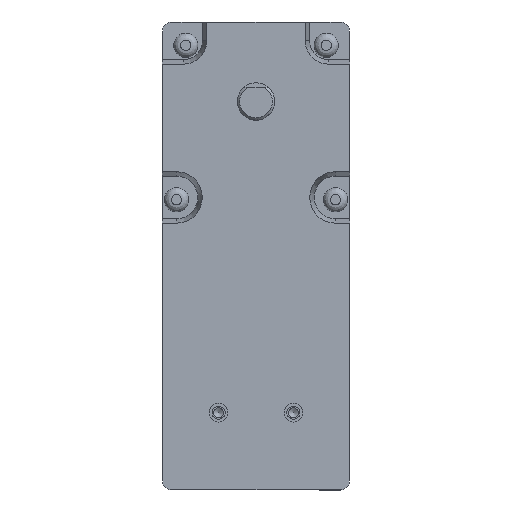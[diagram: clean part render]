
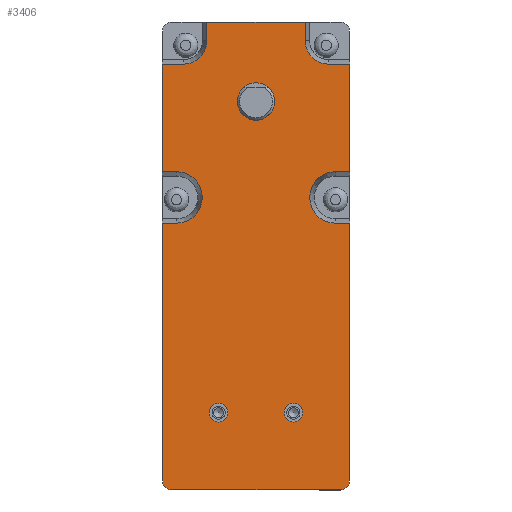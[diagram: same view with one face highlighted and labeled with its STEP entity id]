
A CAD part, top view. The second image highlights one B-rep face of the part: STEP entity #3406.
In plain terms, the highlighted planar face has unit normal (0, 0, 1) as drawn and (0, 1, 0) by its records, which use the part's own axes.
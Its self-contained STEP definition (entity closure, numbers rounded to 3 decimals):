
#73=FACE_BOUND('',#652,.T.);
#74=FACE_BOUND('',#653,.T.);
#75=FACE_BOUND('',#654,.T.);
#152=PLANE('',#3816);
#411=FACE_OUTER_BOUND('',#651,.T.);
#651=EDGE_LOOP('',(#2731,#2732,#2733,#2734,#2735,#2736,#2737,#2738,#2739,
#2740,#2741,#2742,#2743,#2744,#2745,#2746,#2747,#2748,#2749,#2750));
#652=EDGE_LOOP('',(#2751));
#653=EDGE_LOOP('',(#2752));
#654=EDGE_LOOP('',(#2753));
#826=LINE('',#5208,#1110);
#838=LINE('',#5240,#1122);
#842=LINE('',#5247,#1126);
#853=LINE('',#5423,#1137);
#854=LINE('',#5425,#1138);
#860=LINE('',#5442,#1144);
#861=LINE('',#5444,#1145);
#868=LINE('',#5462,#1152);
#869=LINE('',#5465,#1153);
#874=LINE('',#5476,#1158);
#880=LINE('',#5491,#1164);
#899=LINE('',#5578,#1183);
#900=LINE('',#5579,#1184);
#904=LINE('',#5607,#1188);
#1110=VECTOR('',#4141,10.);
#1122=VECTOR('',#4173,10.);
#1126=VECTOR('',#4177,10.);
#1137=VECTOR('',#4258,10.);
#1138=VECTOR('',#4261,10.);
#1144=VECTOR('',#4277,10.);
#1145=VECTOR('',#4280,10.);
#1152=VECTOR('',#4297,10.);
#1153=VECTOR('',#4300,10.);
#1158=VECTOR('',#4309,10.);
#1164=VECTOR('',#4323,10.);
#1183=VECTOR('',#4418,10.);
#1184=VECTOR('',#4419,10.);
#1188=VECTOR('',#4453,10.);
#1393=CIRCLE('',#3671,2.);
#1395=CIRCLE('',#3676,2.);
#1418=CIRCLE('',#3712,5.5);
#1420=CIRCLE('',#3718,5.);
#1422=CIRCLE('',#3724,5.5);
#1424=CIRCLE('',#3731,5.);
#1435=CIRCLE('',#3752,4.);
#1438=CIRCLE('',#3757,2.);
#1442=CIRCLE('',#3764,2.);
#1587=VERTEX_POINT('',#5205);
#1588=VERTEX_POINT('',#5207);
#1589=VERTEX_POINT('',#5211);
#1593=VERTEX_POINT('',#5225);
#1597=VERTEX_POINT('',#5237);
#1598=VERTEX_POINT('',#5239);
#1601=VERTEX_POINT('',#5245);
#1621=VERTEX_POINT('',#5414);
#1622=VERTEX_POINT('',#5416);
#1625=VERTEX_POINT('',#5430);
#1626=VERTEX_POINT('',#5432);
#1629=VERTEX_POINT('',#5440);
#1631=VERTEX_POINT('',#5450);
#1632=VERTEX_POINT('',#5452);
#1635=VERTEX_POINT('',#5460);
#1636=VERTEX_POINT('',#5464);
#1639=VERTEX_POINT('',#5473);
#1640=VERTEX_POINT('',#5475);
#1643=VERTEX_POINT('',#5482);
#1645=VERTEX_POINT('',#5489);
#1659=VERTEX_POINT('',#5537);
#1662=VERTEX_POINT('',#5546);
#1666=VERTEX_POINT('',#5559);
#1903=EDGE_CURVE('',#1587,#1588,#826,.T.);
#1905=EDGE_CURVE('',#1588,#1589,#1393,.T.);
#1913=EDGE_CURVE('',#1593,#1587,#1395,.T.);
#1919=EDGE_CURVE('',#1597,#1598,#838,.T.);
#1923=EDGE_CURVE('',#1601,#1593,#842,.T.);
#1953=EDGE_CURVE('',#1622,#1621,#1418,.T.);
#1957=EDGE_CURVE('',#1621,#1598,#853,.T.);
#1958=EDGE_CURVE('',#1601,#1622,#854,.T.);
#1961=EDGE_CURVE('',#1626,#1625,#1420,.T.);
#1966=EDGE_CURVE('',#1625,#1629,#860,.T.);
#1967=EDGE_CURVE('',#1597,#1626,#861,.T.);
#1971=EDGE_CURVE('',#1632,#1631,#1422,.T.);
#1976=EDGE_CURVE('',#1631,#1635,#868,.T.);
#1977=EDGE_CURVE('',#1636,#1632,#869,.T.);
#1982=EDGE_CURVE('',#1640,#1639,#874,.T.);
#1986=EDGE_CURVE('',#1639,#1643,#1424,.T.);
#1990=EDGE_CURVE('',#1643,#1645,#880,.T.);
#2011=EDGE_CURVE('',#1659,#1659,#1435,.T.);
#2014=EDGE_CURVE('',#1662,#1662,#1438,.T.);
#2020=EDGE_CURVE('',#1666,#1666,#1442,.T.);
#2030=EDGE_CURVE('',#1589,#1635,#899,.T.);
#2031=EDGE_CURVE('',#1636,#1645,#900,.T.);
#2044=EDGE_CURVE('',#1640,#1629,#904,.T.);
#2731=ORIENTED_EDGE('',*,*,#1957,.T.);
#2732=ORIENTED_EDGE('',*,*,#1919,.F.);
#2733=ORIENTED_EDGE('',*,*,#1967,.T.);
#2734=ORIENTED_EDGE('',*,*,#1961,.T.);
#2735=ORIENTED_EDGE('',*,*,#1966,.T.);
#2736=ORIENTED_EDGE('',*,*,#2044,.F.);
#2737=ORIENTED_EDGE('',*,*,#1982,.T.);
#2738=ORIENTED_EDGE('',*,*,#1986,.T.);
#2739=ORIENTED_EDGE('',*,*,#1990,.T.);
#2740=ORIENTED_EDGE('',*,*,#2031,.F.);
#2741=ORIENTED_EDGE('',*,*,#1977,.T.);
#2742=ORIENTED_EDGE('',*,*,#1971,.T.);
#2743=ORIENTED_EDGE('',*,*,#1976,.T.);
#2744=ORIENTED_EDGE('',*,*,#2030,.F.);
#2745=ORIENTED_EDGE('',*,*,#1905,.F.);
#2746=ORIENTED_EDGE('',*,*,#1903,.F.);
#2747=ORIENTED_EDGE('',*,*,#1913,.F.);
#2748=ORIENTED_EDGE('',*,*,#1923,.F.);
#2749=ORIENTED_EDGE('',*,*,#1958,.T.);
#2750=ORIENTED_EDGE('',*,*,#1953,.T.);
#2751=ORIENTED_EDGE('',*,*,#2014,.T.);
#2752=ORIENTED_EDGE('',*,*,#2020,.T.);
#2753=ORIENTED_EDGE('',*,*,#2011,.T.);
#3406=ADVANCED_FACE('',(#411,#73,#74,#75),#152,.T.);
#3671=AXIS2_PLACEMENT_3D('',#5212,#4145,#4146);
#3676=AXIS2_PLACEMENT_3D('',#5227,#4161,#4162);
#3712=AXIS2_PLACEMENT_3D('',#5417,#4250,#4251);
#3718=AXIS2_PLACEMENT_3D('',#5433,#4268,#4269);
#3724=AXIS2_PLACEMENT_3D('',#5453,#4288,#4289);
#3731=AXIS2_PLACEMENT_3D('',#5484,#4315,#4316);
#3752=AXIS2_PLACEMENT_3D('',#5539,#4369,#4370);
#3757=AXIS2_PLACEMENT_3D('',#5547,#4379,#4380);
#3764=AXIS2_PLACEMENT_3D('',#5560,#4395,#4396);
#3816=AXIS2_PLACEMENT_3D('',#5664,#4526,#4527);
#4141=DIRECTION('',(1.,0.,0.));
#4145=DIRECTION('center_axis',(0.,-1.,0.));
#4146=DIRECTION('ref_axis',(0.707,0.,-0.707));
#4161=DIRECTION('center_axis',(0.,-1.,0.));
#4162=DIRECTION('ref_axis',(-0.707,0.,-0.707));
#4173=DIRECTION('',(0.,0.,-1.));
#4177=DIRECTION('',(0.,0.,-1.));
#4250=DIRECTION('center_axis',(0.,-1.,0.));
#4251=DIRECTION('ref_axis',(-1.,0.,0.));
#4258=DIRECTION('',(-1.,0.,0.));
#4261=DIRECTION('',(1.,0.,0.));
#4268=DIRECTION('center_axis',(0.,-1.,0.));
#4269=DIRECTION('ref_axis',(1.,0.,0.));
#4277=DIRECTION('',(0.,0.,1.));
#4280=DIRECTION('',(1.,0.,0.));
#4288=DIRECTION('center_axis',(0.,-1.,0.));
#4289=DIRECTION('ref_axis',(-1.,0.,0.));
#4297=DIRECTION('',(1.,0.,0.));
#4300=DIRECTION('',(-1.,0.,0.));
#4309=DIRECTION('',(0.,0.,-1.));
#4315=DIRECTION('center_axis',(0.,-1.,0.));
#4316=DIRECTION('ref_axis',(0.,0.,-1.));
#4323=DIRECTION('',(1.,0.,0.));
#4369=DIRECTION('center_axis',(0.,-1.,0.));
#4370=DIRECTION('ref_axis',(1.,0.,0.));
#4379=DIRECTION('center_axis',(0.,-1.,0.));
#4380=DIRECTION('ref_axis',(1.,0.,0.));
#4395=DIRECTION('center_axis',(0.,-1.,0.));
#4396=DIRECTION('ref_axis',(1.,0.,0.));
#4418=DIRECTION('',(0.,0.,1.));
#4419=DIRECTION('',(0.,0.,1.));
#4453=DIRECTION('',(-1.,0.,0.));
#4526=DIRECTION('center_axis',(0.,1.,0.));
#4527=DIRECTION('ref_axis',(0.,0.,1.));
#5205=CARTESIAN_POINT('',(-18.,19.,-83.));
#5207=CARTESIAN_POINT('',(18.,19.,-83.));
#5208=CARTESIAN_POINT('',(20.,19.,-83.));
#5211=CARTESIAN_POINT('',(20.,19.,-81.));
#5212=CARTESIAN_POINT('Origin',(18.,19.,-81.));
#5225=CARTESIAN_POINT('',(-20.,19.,-81.));
#5227=CARTESIAN_POINT('Origin',(-18.,19.,-81.));
#5237=CARTESIAN_POINT('',(-20.,19.,8.));
#5239=CARTESIAN_POINT('',(-20.,19.,-15.));
#5240=CARTESIAN_POINT('',(-20.,19.,-83.));
#5245=CARTESIAN_POINT('',(-20.,19.,-26.));
#5247=CARTESIAN_POINT('',(-20.,19.,-83.));
#5414=CARTESIAN_POINT('',(-17.,19.,-15.));
#5416=CARTESIAN_POINT('',(-17.,19.,-26.));
#5417=CARTESIAN_POINT('Origin',(-17.,19.,-20.5));
#5423=CARTESIAN_POINT('',(-10.,19.,-15.));
#5425=CARTESIAN_POINT('',(-8.5,19.,-26.));
#5430=CARTESIAN_POINT('',(-10.5,19.,13.));
#5432=CARTESIAN_POINT('',(-15.5,19.,8.));
#5433=CARTESIAN_POINT('Origin',(-15.5,19.,13.));
#5440=CARTESIAN_POINT('',(-10.5,19.,17.));
#5442=CARTESIAN_POINT('',(-10.5,19.,-8.));
#5444=CARTESIAN_POINT('',(-7.75,19.,8.));
#5450=CARTESIAN_POINT('',(17.,19.,-26.));
#5452=CARTESIAN_POINT('',(17.,19.,-15.));
#5453=CARTESIAN_POINT('Origin',(17.,19.,-20.5));
#5460=CARTESIAN_POINT('',(20.,19.,-26.));
#5462=CARTESIAN_POINT('',(10.,19.,-26.));
#5464=CARTESIAN_POINT('',(20.,19.,-15.));
#5465=CARTESIAN_POINT('',(8.5,19.,-15.));
#5473=CARTESIAN_POINT('',(10.5,19.,13.));
#5475=CARTESIAN_POINT('',(10.5,19.,17.));
#5476=CARTESIAN_POINT('',(10.5,19.,-10.));
#5482=CARTESIAN_POINT('',(15.5,19.,8.));
#5484=CARTESIAN_POINT('Origin',(15.5,19.,13.));
#5489=CARTESIAN_POINT('',(20.,19.,8.));
#5491=CARTESIAN_POINT('',(10.,19.,8.));
#5537=CARTESIAN_POINT('',(4.,19.,0.));
#5539=CARTESIAN_POINT('Origin',(0.,19.,0.));
#5546=CARTESIAN_POINT('',(6.,19.,-66.5));
#5547=CARTESIAN_POINT('Origin',(8.,19.,-66.5));
#5559=CARTESIAN_POINT('',(-10.,19.,-66.5));
#5560=CARTESIAN_POINT('Origin',(-8.,19.,-66.5));
#5578=CARTESIAN_POINT('',(20.,19.,17.));
#5579=CARTESIAN_POINT('',(20.,19.,17.));
#5607=CARTESIAN_POINT('',(-20.,19.,17.));
#5664=CARTESIAN_POINT('Origin',(0.,19.,-33.));
